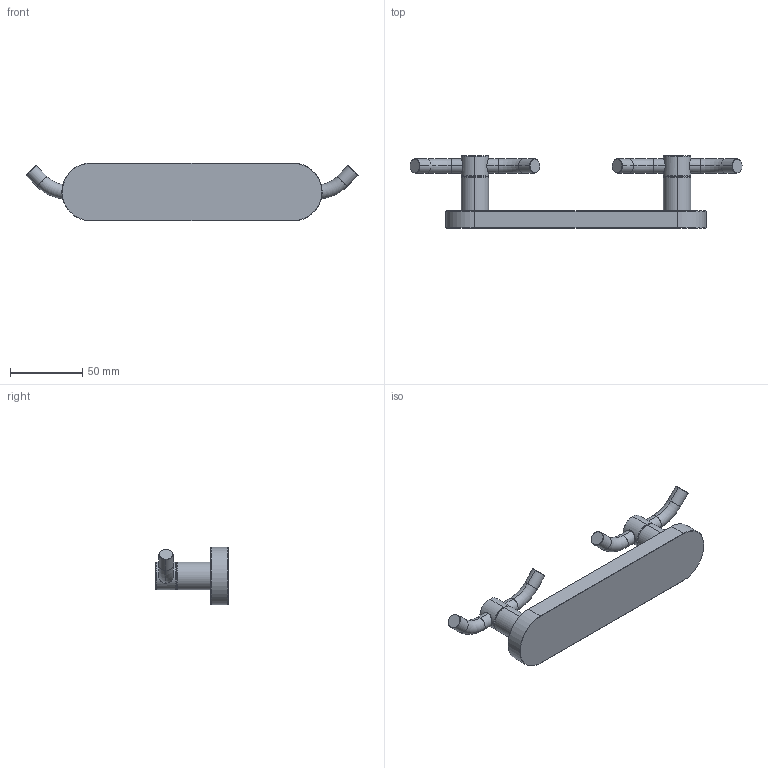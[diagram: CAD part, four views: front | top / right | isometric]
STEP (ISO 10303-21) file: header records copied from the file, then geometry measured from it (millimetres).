
FILE_DESCRIPTION(('THIS FILE CONTAINS SOME STEP INSTANCES'),'1');
FILE_NAME('HAR 008-light.stp','2015-10-26T14:18:30',('UNDEFINED'),('UNDEFINED'),'T-FLEX CAD STEP converter','T-FLEX CAD','');
FILE_SCHEMA(('CONFIG_CONTROL_DESIGN'));
Length unit declared in the file: metre
Products named in the file (1): har_008
Bounding box: 229.65 x 50 x 40 mm (x, y, z)
Volume: 115082.2 mm3; surface area: 27701.4 mm2
Topology: 1 solids, 1 shells, 92 faces, 184 edges, 104 vertices
Faces by surface type: cylinder 30, cone 28, plane 18, torus 8, bspline 8
Entity records: 5720 total; most frequent: CARTESIAN_POINT 4097, ORIENTED_EDGE 368, DIRECTION 274, EDGE_CURVE 184, VERTEX_POINT 104, EDGE_LOOP 102, AXIS2_PLACEMENT_3D 101, ADVANCED_FACE 92
